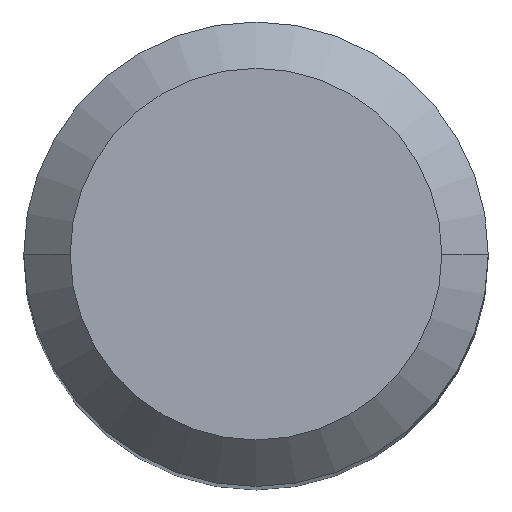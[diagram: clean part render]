
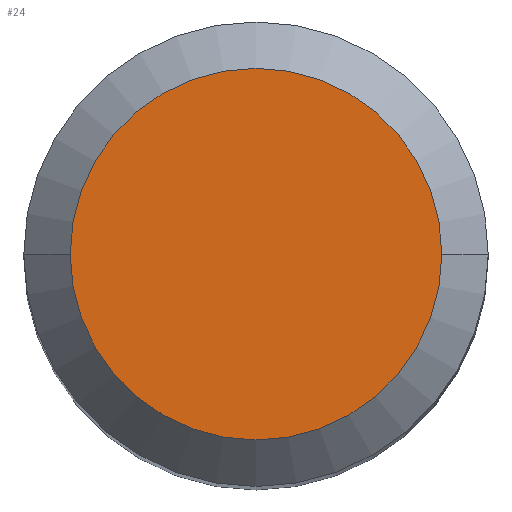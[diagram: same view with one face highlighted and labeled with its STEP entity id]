
A CAD part, top view. The second image highlights one B-rep face of the part: STEP entity #24.
In plain terms, the highlighted planar face has unit normal (0, 0, 1).
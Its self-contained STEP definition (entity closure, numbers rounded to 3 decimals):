
#12 = EDGE_LOOP ( 'NONE', ( #449, #278 ) ) ;
#24 = ADVANCED_FACE ( 'NONE', ( #83 ), #420, .T. ) ;
#32 = EDGE_CURVE ( 'NONE', #482, #475, #37, .T. ) ;
#37 = CIRCLE ( 'NONE', #319, 3.2 ) ;
#83 = FACE_OUTER_BOUND ( 'NONE', #12, .T. ) ;
#100 = AXIS2_PLACEMENT_3D ( 'NONE', #538, #286, #294 ) ;
#139 = CARTESIAN_POINT ( 'NONE',  ( -3.2, 0., 0. ) ) ;
#192 = EDGE_CURVE ( 'NONE', #475, #482, #484, .T. ) ;
#227 = DIRECTION ( 'NONE',  ( 0., 0., -1. ) ) ;
#230 = CARTESIAN_POINT ( 'NONE',  ( 3.2, 0., 0. ) ) ;
#268 = AXIS2_PLACEMENT_3D ( 'NONE', #437, #227, #432 ) ;
#278 = ORIENTED_EDGE ( 'NONE', *, *, #32, .F. ) ;
#286 = DIRECTION ( 'NONE',  ( 0., 0., 1. ) ) ;
#294 = DIRECTION ( 'NONE',  ( 1., 0., 0. ) ) ;
#319 = AXIS2_PLACEMENT_3D ( 'NONE', #466, #461, #378 ) ;
#378 = DIRECTION ( 'NONE',  ( -1., 0., 0. ) ) ;
#420 = PLANE ( 'NONE',  #100 ) ;
#432 = DIRECTION ( 'NONE',  ( -1., 0., 0. ) ) ;
#437 = CARTESIAN_POINT ( 'NONE',  ( 0., 0., 0. ) ) ;
#449 = ORIENTED_EDGE ( 'NONE', *, *, #192, .F. ) ;
#461 = DIRECTION ( 'NONE',  ( 0., 0., -1. ) ) ;
#466 = CARTESIAN_POINT ( 'NONE',  ( 0., 0., 0. ) ) ;
#475 = VERTEX_POINT ( 'NONE', #139 ) ;
#482 = VERTEX_POINT ( 'NONE', #230 ) ;
#484 = CIRCLE ( 'NONE', #268, 3.2 ) ;
#538 = CARTESIAN_POINT ( 'NONE',  ( 0., 3.2, 0. ) ) ;
